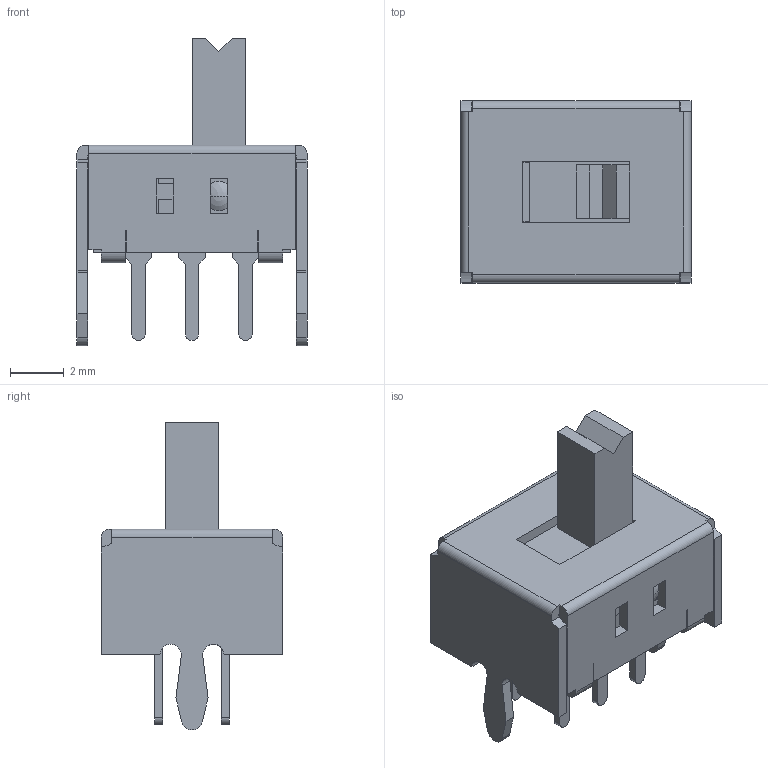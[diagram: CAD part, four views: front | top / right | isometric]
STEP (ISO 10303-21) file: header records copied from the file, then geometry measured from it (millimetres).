
FILE_DESCRIPTION((''),'2;1');
FILE_NAME('MFP213N_ASM','2017-11-17T',('Administrator'),(''),'PRO/ENGINEER BY PARAMETRIC TECHNOLOGY CORPORATION, 2009400','PRO/ENGINEER BY PARAMETRIC TECHNOLOGY CORPORATION, 2009400','');
FILE_SCHEMA(('CONFIG_CONTROL_DESIGN'));
Length unit declared in the file: millimetre
Products named in the file (1): MFP213N_ASM
Bounding box: 8.6 x 6.8 x 11.5 mm (x, y, z)
Volume: 195.1 mm3; surface area: 688.6 mm2
Topology: 1 solids, 1 shells, 240 faces, 730 edges, 484 vertices
Faces by surface type: plane 206, cylinder 32, sphere 2
Entity records: 8206 total; most frequent: CARTESIAN_POINT 1510, ORIENTED_EDGE 1456, DIRECTION 1295, EDGE_CURVE 728, VECTOR 623, LINE 623, VERTEX_POINT 484, AXIS2_PLACEMENT_3D 336
